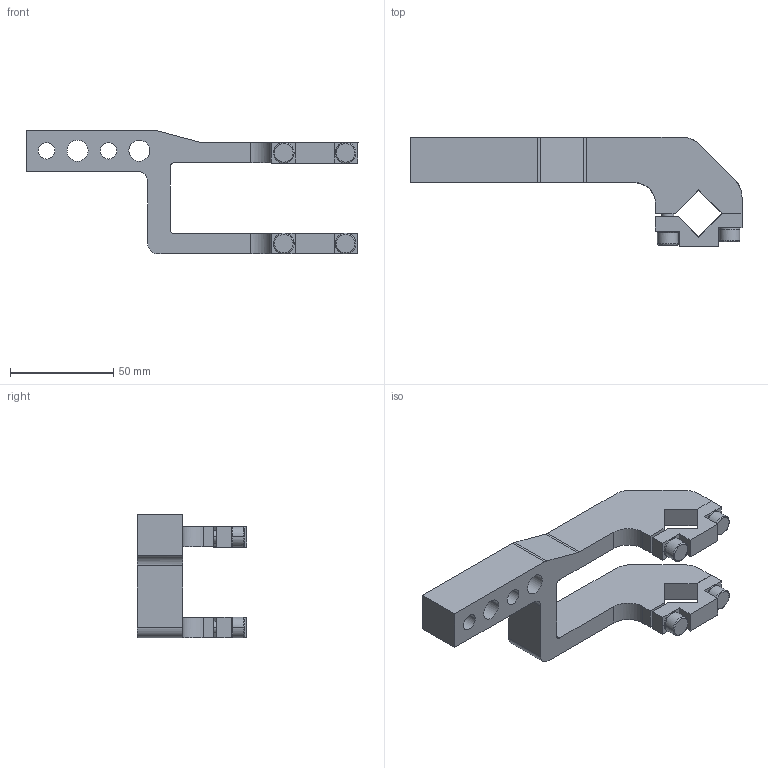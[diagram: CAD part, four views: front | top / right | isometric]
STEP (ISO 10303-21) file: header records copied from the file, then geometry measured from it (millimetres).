
FILE_DESCRIPTION(('CATIA V5 STEP Exchange'),'2;1');
FILE_NAME('E:\clampact\CLAMPACT\clampact\3D\Clampact Arm-3D\Clampact Arm-3D\K40-15-A92-S_Clampact.stp','2024-06-11T09:03:28+00:00',('none'),('none'),'CATIA Version 5 Release 19 SP 6 (IN-10)','CATIA V5 STEP AP203','none');
FILE_SCHEMA(('CONFIG_CONTROL_DESIGN'));
Length unit declared in the file: millimetre
Products named in the file (1): K40-15-A92-S_Clampact
Bounding box: 161 x 53 x 60 mm (x, y, z)
Volume: 87297.1 mm3; surface area: 28904.3 mm2
Topology: 1 solids, 5 shells, 164 faces, 416 edges, 262 vertices
Faces by surface type: plane 80, cylinder 48, cone 22, torus 14
Entity records: 5147 total; most frequent: CARTESIAN_POINT 1478, ORIENTED_EDGE 816, DIRECTION 593, EDGE_CURVE 408, VERTEX_POINT 262, VECTOR 244, LINE 244, AXIS2_PLACEMENT_3D 234
